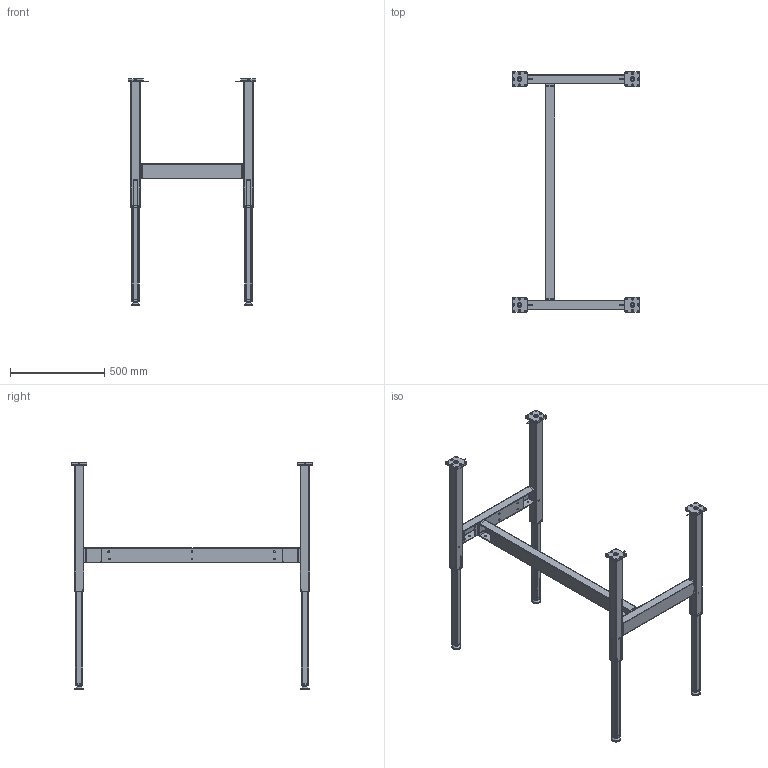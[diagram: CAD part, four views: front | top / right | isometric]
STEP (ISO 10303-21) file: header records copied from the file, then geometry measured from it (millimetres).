
FILE_DESCRIPTION(/* description */ ('Unknown'),/* implementation_level */ '2;1');
FILE_NAME(/* name */ '108.10032_03_ausgefahren',/* time_stamp */ '2019-09-20T17:31:25+02:00',/* author */ ('Unknown'),/* organization */ ('Unknown'),/* preprocessor_version */ 'ST-DEVELOPER v16.7',/* originating_system */ 'DEX',/* authorisation */ $);
FILE_SCHEMA (('AUTOMOTIVE_DESIGN {1 0 10303 214 3 1 1}'));
Length unit declared in the file: millimetre
Products named in the file (44): 108.10032; 306.00505_oa_0; 127.00255; Aussenprofil TU L675; Aussenrohr 50x50x673_oa_1; Flanschplatte Aussenrohr; 127.00048; Aussenprofil TU L675_408_866_Kehlnaht 7_oa_2; Aussenprofil TU L675_408_866_Kehlnaht 7_oa_3; Endkappe Kugelführung_oa_4; Spannstift 3x6; Innenprofil TU L647; Innenrohr 40x40x647; Einschweissplatte TU M10; Innenprofil TU L647_443_671_Kehlnaht 2_oa_5; 127.00270; 142.00031; 124.00004; 142.00077; 107.00197_oa_6; 142.00021; 125.00021; 115.00007_oa_7; 125.00033; 113.00002_70mm; 306.00505_oa_8; 107.00197_oa_14; 115.00007_oa_15; 306.00505_oa_16; 107.00197_oa_22; 115.00007_oa_23; 306.00505_oa_24; 107.00197_oa_30; 115.00007_oa_31; 115.00150; 127.00365; 127.00055; 127.00039; 115.00153; 127.00372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
Assembly tree (92 placements, depth 5):
  108.10032
    306.00505_oa_0
      127.00255
        Aussenprofil TU L675
          Aussenrohr 50x50x673_oa_1
          Flanschplatte Aussenrohr
          127.00048
          Aussenprofil TU L675_408_866_Kehlnaht 7_oa_2
          Aussenprofil TU L675_408_866_Kehlnaht 7_oa_3
          Endkappe Kugelführung_oa_4
          Spannstift 3x6  x4
        Innenprofil TU L647
          Innenrohr 40x40x647
          Einschweissplatte TU M10
          Innenprofil TU L647_443_671_Kehlnaht 2_oa_5
      127.00270
      142.00031
      124.00004
      142.00077  x3
      107.00197_oa_6
        142.00021
        125.00021
        115.00007_oa_7
        125.00033
        113.00002_70mm
      113.00002_70mm
    306.00505_oa_8
      127.00255
        Aussenprofil TU L675
          Aussenrohr 50x50x673_oa_1
          Flanschplatte Aussenrohr
          127.00048
          Aussenprofil TU L675_408_866_Kehlnaht 7_oa_2
          Aussenprofil TU L675_408_866_Kehlnaht 7_oa_3
          Endkappe Kugelführung_oa_4
          Spannstift 3x6  x4
        Innenprofil TU L647
          Innenrohr 40x40x647
          Einschweissplatte TU M10
          Innenprofil TU L647_443_671_Kehlnaht 2_oa_5
      127.00270
      142.00031
      124.00004
      142.00077  x3
      107.00197_oa_14
        142.00021
        125.00021
        115.00007_oa_15
        125.00033
        113.00002_70mm
      113.00002_70mm
    306.00505_oa_16
      127.00255
        Aussenprofil TU L675
          Aussenrohr 50x50x673_oa_1
          Flanschplatte Aussenrohr
          127.00048
          Aussenprofil TU L675_408_866_Kehlnaht 7_oa_2
          Aussenprofil TU L675_408_866_Kehlnaht 7_oa_3
          Endkappe Kugelführung_oa_4
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Bounding box: 680 x 1280 x 1205.5 mm (x, y, z)
Volume: 4026108 mm3; surface area: 3070108.4 mm2
Topology: 145 solids, 145 shells, 2032 faces, 4940 edges, 3268 vertices
Faces by surface type: plane 1160, cylinder 656, cone 176, torus 36, sphere 4
Full cylindrical faces by diameter (mm): 1.8 x8, 2.2 x8, 2.78 x4, 3 x32, 3.5 x4, 4 x8, 4.1 x4, 4.2 x4, 4.917 x28, 6 x24, 6.5 x12, 6.647 x12, 6.8 x24, 6.917 x8, 8 x12, 8.376 x8, 9 x72, 9.5 x4, 10 x8, 12 x4, 12.5 x4, 13 x20, 13.5 x4, 13.9 x8, 15 x4, 19 x4, 25 x8, 29 x4, 35 x4, 39 x4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
Entity records: 17455 total; most frequent: CARTESIAN_POINT 2711, DIRECTION 2689, ORIENTED_EDGE 2222, EDGE_CURVE 1111, AXIS2_PLACEMENT_3D 1017, VERTEX_POINT 801, FACE_BOUND 796, EDGE_LOOP 794
